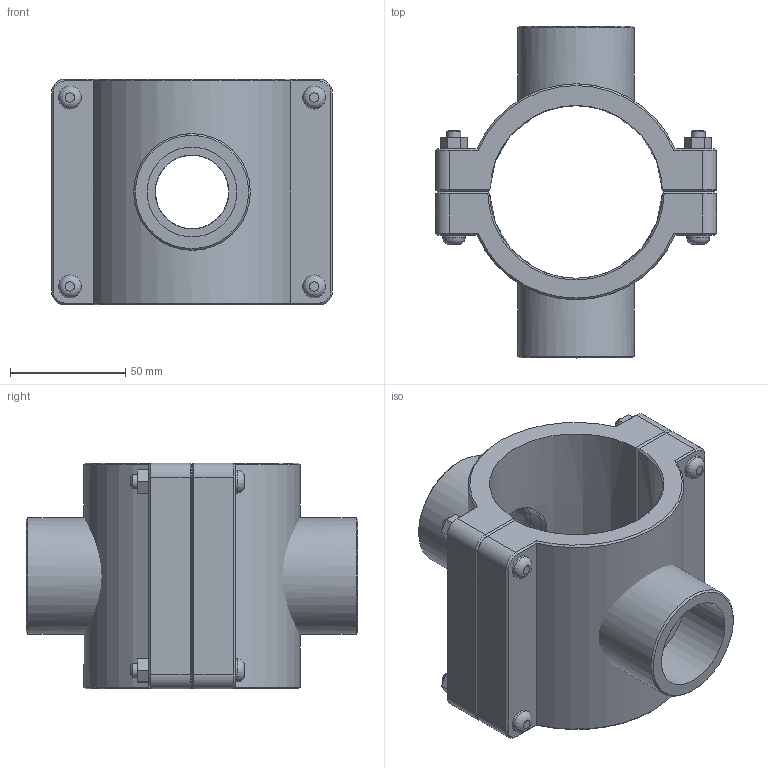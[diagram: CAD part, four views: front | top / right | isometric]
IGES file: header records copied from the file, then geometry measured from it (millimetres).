
Global section: file name: 161760075013_161860075013.ipt; native system: Autodesk Inventor 2015; preprocessor: unknown; author: KIM; date: 20170618.093717; units: millimetre
Bounding box: 122 x 144 x 98 mm (x, y, z)
Volume: 406172.8 mm3; surface area: 97061.8 mm2
Topology: 3 solids, 3 shells, 151 faces, 350 edges, 221 vertices
Faces by surface type: plane 84, cone 26, cylinder 24, revolution 17
Full cylindrical faces by diameter (mm): 6 x4, 10 x8, 50.638 x2
